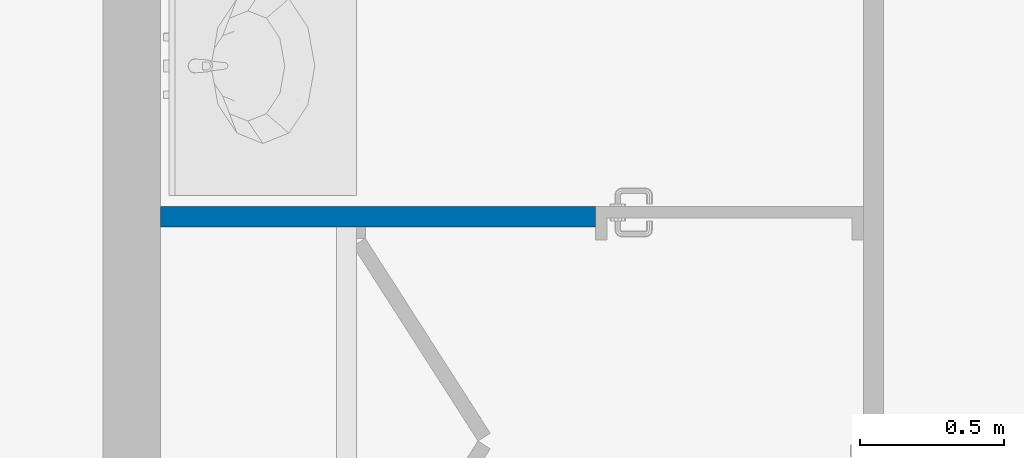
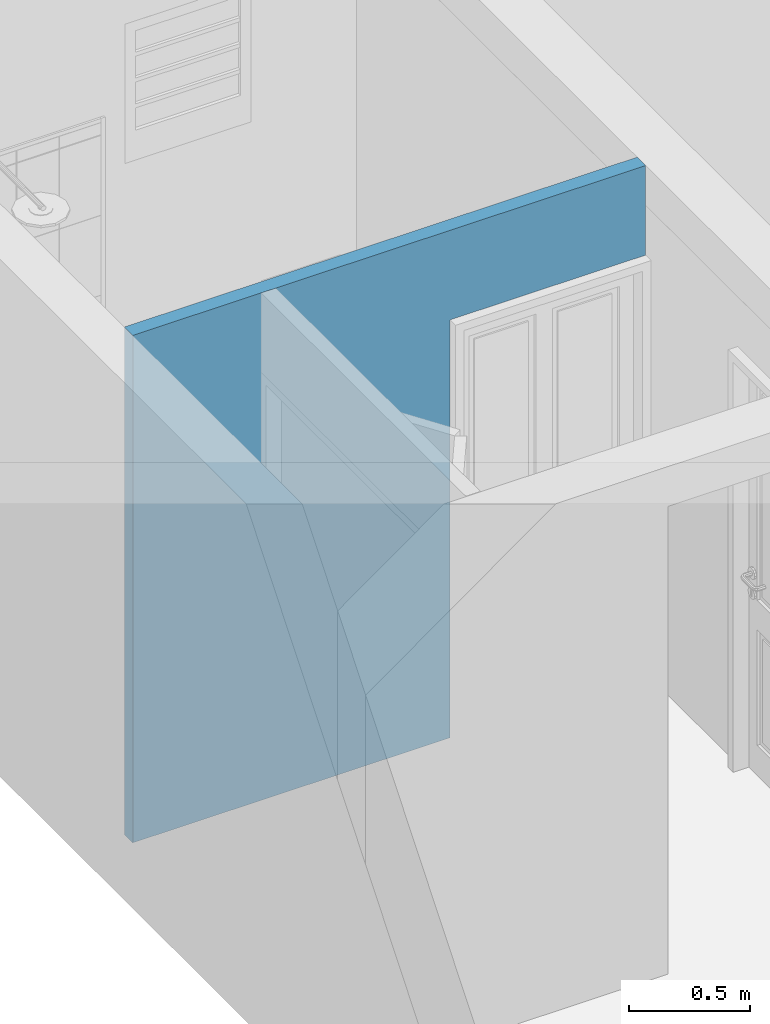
# One storey, part 6 of 13: 1 wall, 1 opening.
"""IFC2X3 building model written with IfcOpenShell, lengths in metres."""

from ifc_helpers import new_model, entity, si_unit, converted_unit, derived_unit, money_unit, direction, frame, origin_with_axes, origin_2d_with_axis, place, context, subcontext, project, spatial, polyline, rectangle, outline, extrude, boolean, faceted_brep, material, type_object, element, save


model = new_model("IFC2X3")

# Units and contexts
model_context = context("Model", 3, precision=1e-05, world=origin_with_axes(), true_north=direction((0.0, 1.0)))
body_context = subcontext(model_context, "Body", "Model", "MODEL_VIEW")
ifc_project = project(units=[si_unit("LENGTHUNIT", "METRE"), si_unit("AREAUNIT", "SQUARE_METRE"), si_unit("VOLUMEUNIT", "CUBIC_METRE"), converted_unit("PLANEANGLEUNIT", "DEGREE", entity("IfcPlaneAngleMeasure", 0.0174532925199), si_unit("PLANEANGLEUNIT", "RADIAN"), dimensions=[0, 0, 0, 0, 0, 0, 0]), si_unit("SOLIDANGLEUNIT", "STERADIAN"), money_unit("CHF"), converted_unit("TIMEUNIT", "Year", entity("IfcTimeMeasure", 31556926.0), si_unit("TIMEUNIT", "SECOND"), dimensions=[0, 0, 1, 0, 0, 0, 0]), si_unit("MASSUNIT", "GRAM", prefix="KILO"), si_unit("THERMODYNAMICTEMPERATUREUNIT", "DEGREE_CELSIUS"), si_unit("LUMINOUSINTENSITYUNIT", "LUMEN"), si_unit("ENERGYUNIT", "JOULE", prefix="MEGA"), derived_unit("THERMALCONDUCTANCEUNIT", [(si_unit("POWERUNIT", "WATT"), 1), (si_unit("LENGTHUNIT", "METRE"), -1), (si_unit("THERMODYNAMICTEMPERATUREUNIT", "KELVIN"), -1)]), derived_unit("SPECIFICHEATCAPACITYUNIT", [(si_unit("ENERGYUNIT", "JOULE"), 1), (si_unit("MASSUNIT", "GRAM", prefix="KILO"), -1), (si_unit("THERMODYNAMICTEMPERATUREUNIT", "KELVIN"), -1)]), derived_unit("MASSDENSITYUNIT", [(si_unit("MASSUNIT", "GRAM", prefix="KILO"), 1), (si_unit("VOLUMEUNIT", "CUBIC_METRE"), -1)])], contexts=[model_context])

# Site, building, storey
site_placement = place(None, origin_with_axes())
site = spatial("IfcSite", under=ifc_project, at=site_placement, Name="Site", CompositionType="ELEMENT")
building_placement = place(site_placement, origin_with_axes())
building = spatial("IfcBuilding", under=site, at=building_placement, Name="Bâtiment", CompositionType="ELEMENT")
storey_placement = place(building_placement, origin_with_axes())
storey = spatial("IfcBuildingStorey", under=building, at=storey_placement, Name="SOUS-SOL", CompositionType="ELEMENT", Elevation=0.0)

# Wall, opening
ifc_material = material(Name="Hachure solide 2628782308")
wall_type = type_object("IfcWallType", Name="Hachure solide 2628782308 70", PredefinedType="NOTDEFINED")
wall_placement = place(storey_placement, frame((89.1055190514, 16.2675249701, -2.74), z_axis=(0.0, 0.0, 1.0), x_axis=(1.0, 0.0, 0.0)))
wall = element("IfcWall", 1, at=wall_placement, inside=storey, type_object=wall_type, material=ifc_material, Name="MurExt-020", context=body_context, shape_type="CSG", body=[
    boolean("DIFFERENCE", boolean("DIFFERENCE", extrude(outline(polyline([(0.0, -0.07), (2.868, -0.07), (2.868, 0.0), (0.0, 0.0), (0.0, -0.07)])), origin_with_axes(), (0.0, 0.0, 1.0), 2.55), faceted_brep([(0.2, -0.07, 2.55), (0.2, 0.0, 2.55), (0.0, 0.0, 2.55), (0.0, -0.07, 2.55), (0.2, 0.0, 0.0), (0.2, -0.07, 0.0), (0.0, 0.0, 0.0), (0.0, -0.07, 0.0)], [[[0, 1, 2, 3]], [[4, 1, 0, 5]], [[1, 4, 6, 2]], [[2, 6, 7, 3]], [[5, 0, 3, 7]], [[4, 5, 7, 6]]])), faceted_brep([(2.638, 0.0, 0.0), (2.638, 0.0, 2.55), (2.868, 0.0, 2.55), (2.868, 0.0, 0.0), (2.638, -0.07, 2.55), (2.638, -0.07, 0.0), (2.868, -0.07, 2.55), (2.868, -0.07, 0.0)], [[[0, 1, 2, 3]], [[4, 1, 0, 5]], [[1, 4, 6, 2]], [[6, 7, 3, 2]], [[5, 0, 3, 7]], [[4, 5, 7, 6]]])),
])
opening_placement = place(wall_placement, frame((2.173, 0.0, 0.0), z_axis=(0.0, 0.0, 1.0), x_axis=(1.0, 0.0, 0.0)))
element("IfcOpeningElement", 2, at=opening_placement, cuts=wall, Name="Por-049", context=body_context, shape_type="SweptSolid", body=[
    extrude(rectangle(XDim=0.93, YDim=2.1, at=origin_2d_with_axis()), frame((0.0, -0.07, 1.05), z_axis=(0.0, 1.0, 0.0), x_axis=(1.0, 0.0, 0.0)), (0.0, 0.0, 1.0), 0.21),
])

save(model, "model.ifc")
